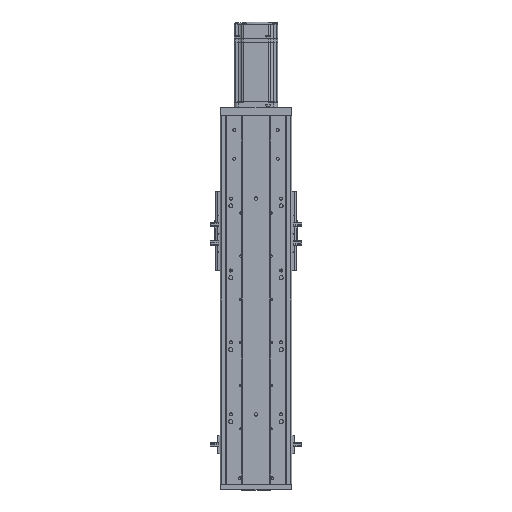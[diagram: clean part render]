
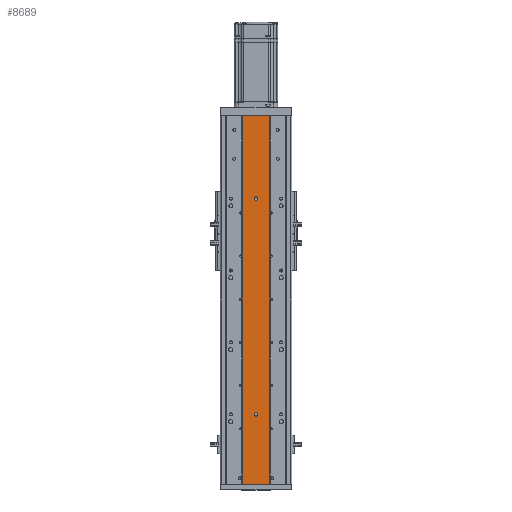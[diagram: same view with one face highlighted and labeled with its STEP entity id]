
A CAD part, top view. The second image highlights one B-rep face of the part: STEP entity #8689.
In plain terms, the highlighted planar face has unit normal (0, 0, 1).
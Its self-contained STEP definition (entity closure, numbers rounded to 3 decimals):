
#2750 = VERTEX_POINT ( 'NONE', #37205 ) ;
#3088 = CARTESIAN_POINT ( 'NONE',  ( -10626.079, 397., -17040.86 ) ) ;
#3116 = DIRECTION ( 'NONE',  ( 0., 0., -1. ) ) ;
#3117 = DIRECTION ( 'NONE',  ( -1., 0., 0. ) ) ;
#3188 = DIRECTION ( 'NONE',  ( -1., 0., 0. ) ) ;
#3189 = CARTESIAN_POINT ( 'NONE',  ( -10626.079, 97., -17040.86 ) ) ;
#3195 = DIRECTION ( 'NONE',  ( 0., 0., -1. ) ) ;
#8689 = ADVANCED_FACE ( 'NONE', ( #33013, #32991, #33004 ), #35137, .F. ) ;
#13722 = VERTEX_POINT ( 'NONE', #25117 ) ;
#13733 = VERTEX_POINT ( 'NONE', #25106 ) ;
#16436 = CARTESIAN_POINT ( 'NONE',  ( -10645.079, 512., -17040.86 ) ) ;
#16447 = CARTESIAN_POINT ( 'NONE',  ( -10607.079, 0., -17040.86 ) ) ;
#16448 = CARTESIAN_POINT ( 'NONE',  ( -10645.079, 0., -17040.86 ) ) ;
#16452 = CARTESIAN_POINT ( 'NONE',  ( -10607.079, 512., -17040.86 ) ) ;
#17293 = LINE ( 'NONE', #21362, #17297 ) ;
#17297 = VECTOR ( 'NONE', #21375, 1000. ) ;
#17304 = VECTOR ( 'NONE', #21365, 1000. ) ;
#17318 = LINE ( 'NONE', #21341, #17304 ) ;
#18506 = VECTOR ( 'NONE', #21295, 1000. ) ;
#18510 = LINE ( 'NONE', #21256, #18543 ) ;
#18527 = LINE ( 'NONE', #21234, #18506 ) ;
#18533 = CIRCLE ( 'NONE', #26189, 2.5 ) ;
#18542 = CIRCLE ( 'NONE', #26190, 2.5 ) ;
#18543 = VECTOR ( 'NONE', #21258, 1000. ) ;
#21234 = CARTESIAN_POINT ( 'NONE',  ( -10607.079, 512., -17040.86 ) ) ;
#21255 = DIRECTION ( 'NONE',  ( -1., 0., 0. ) ) ;
#21256 = CARTESIAN_POINT ( 'NONE',  ( -10645.079, 0., -17040.86 ) ) ;
#21258 = DIRECTION ( 'NONE',  ( 1., 0., 0. ) ) ;
#21267 = DIRECTION ( 'NONE',  ( 0., 0., -1. ) ) ;
#21269 = DIRECTION ( 'NONE',  ( 0., 0., -1. ) ) ;
#21273 = CARTESIAN_POINT ( 'NONE',  ( -10626.079, 397., -17040.86 ) ) ;
#21283 = DIRECTION ( 'NONE',  ( -1., 0., 0. ) ) ;
#21293 = CARTESIAN_POINT ( 'NONE',  ( -10626.079, 97., -17040.86 ) ) ;
#21295 = DIRECTION ( 'NONE',  ( 0., -1., 0. ) ) ;
#21341 = CARTESIAN_POINT ( 'NONE',  ( -10645.079, 512., -17040.86 ) ) ;
#21362 = CARTESIAN_POINT ( 'NONE',  ( -10645.079, 512., -17040.86 ) ) ;
#21365 = DIRECTION ( 'NONE',  ( 1., 0., 0. ) ) ;
#21375 = DIRECTION ( 'NONE',  ( 0., -1., 0. ) ) ;
#22165 = EDGE_LOOP ( 'NONE', ( #27430, #27363, #27533, #27440 ) ) ;
#22167 = EDGE_LOOP ( 'NONE', ( #27412, #27461 ) ) ;
#22181 = EDGE_LOOP ( 'NONE', ( #27433, #27504 ) ) ;
#25106 = CARTESIAN_POINT ( 'NONE',  ( -10623.579, 397., -17040.86 ) ) ;
#25117 = CARTESIAN_POINT ( 'NONE',  ( -10628.579, 397., -17040.86 ) ) ;
#25321 = CARTESIAN_POINT ( 'NONE',  ( -10628.579, 97., -17040.86 ) ) ;
#26189 = AXIS2_PLACEMENT_3D ( 'NONE', #21293, #21267, #21283 ) ;
#26190 = AXIS2_PLACEMENT_3D ( 'NONE', #21273, #21269, #21255 ) ;
#26340 = AXIS2_PLACEMENT_3D ( 'NONE', #3088, #3116, #3117 ) ;
#26391 = AXIS2_PLACEMENT_3D ( 'NONE', #3189, #3195, #3188 ) ;
#26906 = VERTEX_POINT ( 'NONE', #25321 ) ;
#27363 = ORIENTED_EDGE ( 'NONE', *, *, #38837, .F. ) ;
#27412 = ORIENTED_EDGE ( 'NONE', *, *, #39273, .T. ) ;
#27430 = ORIENTED_EDGE ( 'NONE', *, *, #38848, .T. ) ;
#27433 = ORIENTED_EDGE ( 'NONE', *, *, #39289, .T. ) ;
#27440 = ORIENTED_EDGE ( 'NONE', *, *, #38882, .T. ) ;
#27461 = ORIENTED_EDGE ( 'NONE', *, *, #38843, .T. ) ;
#27504 = ORIENTED_EDGE ( 'NONE', *, *, #38838, .T. ) ;
#27533 = ORIENTED_EDGE ( 'NONE', *, *, #38884, .F. ) ;
#32991 = FACE_BOUND ( 'NONE', #22181, .T. ) ;
#33004 = FACE_OUTER_BOUND ( 'NONE', #22165, .T. ) ;
#33013 = FACE_BOUND ( 'NONE', #22167, .T. ) ;
#35109 = DIRECTION ( 'NONE',  ( 0., 0., -1. ) ) ;
#35131 = CARTESIAN_POINT ( 'NONE',  ( -10645.079, 512., -17040.86 ) ) ;
#35132 = DIRECTION ( 'NONE',  ( -1., 0., 0. ) ) ;
#35137 = PLANE ( 'NONE',  #43008 ) ;
#36762 = VERTEX_POINT ( 'NONE', #16452 ) ;
#36782 = VERTEX_POINT ( 'NONE', #16447 ) ;
#36785 = VERTEX_POINT ( 'NONE', #16436 ) ;
#36797 = VERTEX_POINT ( 'NONE', #16448 ) ;
#37205 = CARTESIAN_POINT ( 'NONE',  ( -10623.579, 97., -17040.86 ) ) ;
#38837 = EDGE_CURVE ( 'NONE', #36762, #36782, #18527, .T. ) ;
#38838 = EDGE_CURVE ( 'NONE', #26906, #2750, #18533, .T. ) ;
#38843 = EDGE_CURVE ( 'NONE', #13722, #13733, #18542, .T. ) ;
#38848 = EDGE_CURVE ( 'NONE', #36797, #36782, #18510, .T. ) ;
#38882 = EDGE_CURVE ( 'NONE', #36785, #36797, #17293, .T. ) ;
#38884 = EDGE_CURVE ( 'NONE', #36785, #36762, #17318, .T. ) ;
#39273 = EDGE_CURVE ( 'NONE', #13733, #13722, #41397, .T. ) ;
#39289 = EDGE_CURVE ( 'NONE', #2750, #26906, #41451, .T. ) ;
#41397 = CIRCLE ( 'NONE', #26340, 2.5 ) ;
#41451 = CIRCLE ( 'NONE', #26391, 2.5 ) ;
#43008 = AXIS2_PLACEMENT_3D ( 'NONE', #35131, #35109, #35132 ) ;
